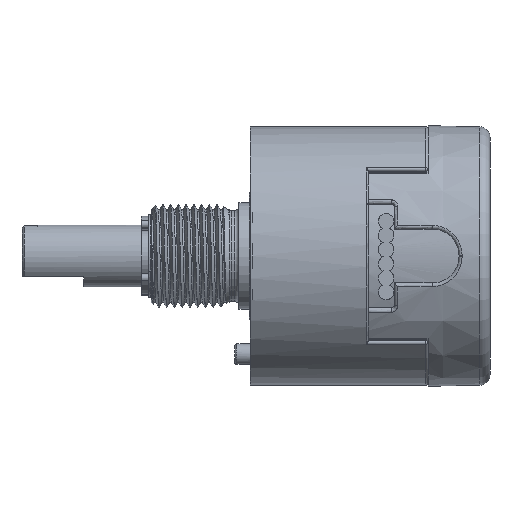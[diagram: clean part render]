
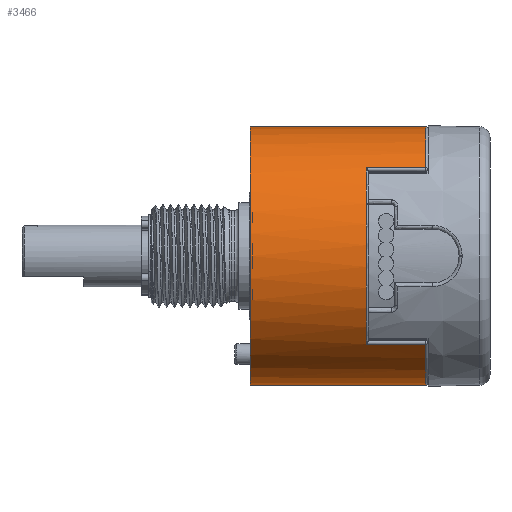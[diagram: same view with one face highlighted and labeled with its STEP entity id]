
A CAD part, front view. The second image highlights one B-rep face of the part: STEP entity #3466.
In plain terms, the highlighted cylindrical face has radius 12.5 mm (diameter 25 mm), a partial arc.
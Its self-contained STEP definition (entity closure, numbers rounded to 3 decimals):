
#20 = CARTESIAN_POINT ( 'NONE',  ( 5.6, -8.937, 8.537 ) ) ;
#281 = DIRECTION ( 'NONE',  ( 0., 0., 1. ) ) ;
#649 = LINE ( 'NONE', #1534, #2486 ) ;
#812 = AXIS2_PLACEMENT_3D ( 'NONE', #1274, #1214, #1390 ) ;
#824 = EDGE_CURVE ( 'NONE', #1554, #11196, #649, .T. ) ;
#910 = DIRECTION ( 'NONE',  ( 0., 0., 1. ) ) ;
#1003 = AXIS2_PLACEMENT_3D ( 'NONE', #8909, #9959, #910 ) ;
#1214 = DIRECTION ( 'NONE',  ( 1., 0., 0. ) ) ;
#1274 = CARTESIAN_POINT ( 'NONE',  ( -11.4, 0.194, 0. ) ) ;
#1390 = DIRECTION ( 'NONE',  ( 0., 0., -1. ) ) ;
#1534 = CARTESIAN_POINT ( 'NONE',  ( -29.87, -8.937, -8.537 ) ) ;
#1554 = VERTEX_POINT ( 'NONE', #2614 ) ;
#1641 = CIRCLE ( 'NONE', #4651, 12.5 ) ;
#1699 = DIRECTION ( 'NONE',  ( -1., 0., 0. ) ) ;
#1798 = CARTESIAN_POINT ( 'NONE',  ( 5.6, 0.194, 12.5 ) ) ;
#1851 = DIRECTION ( 'NONE',  ( 0., 0., 1. ) ) ;
#1860 = AXIS2_PLACEMENT_3D ( 'NONE', #6944, #1699, #10523 ) ;
#2095 = VERTEX_POINT ( 'NONE', #5039 ) ;
#2259 = VERTEX_POINT ( 'NONE', #20 ) ;
#2270 = VERTEX_POINT ( 'NONE', #3621 ) ;
#2467 = CARTESIAN_POINT ( 'NONE',  ( -29.87, 0.194, -12.5 ) ) ;
#2486 = VECTOR ( 'NONE', #8880, 1000. ) ;
#2577 = DIRECTION ( 'NONE',  ( -1., 0., 0. ) ) ;
#2614 = CARTESIAN_POINT ( 'NONE',  ( 5.6, -8.937, -8.537 ) ) ;
#2837 = VERTEX_POINT ( 'NONE', #7781 ) ;
#2858 = CARTESIAN_POINT ( 'NONE',  ( 5.6, 0.194, 0. ) ) ;
#2996 = CIRCLE ( 'NONE', #1860, 12.5 ) ;
#3003 = CARTESIAN_POINT ( 'NONE',  ( -29.87, 0.194, 0. ) ) ;
#3286 = DIRECTION ( 'NONE',  ( 1., 0., 0. ) ) ;
#3466 = ADVANCED_FACE ( 'NONE', ( #9228 ), #4061, .T. ) ;
#3621 = CARTESIAN_POINT ( 'NONE',  ( -11.4, 0.194, 12.5 ) ) ;
#3657 = EDGE_CURVE ( 'NONE', #8879, #2095, #6934, .T. ) ;
#4061 = CYLINDRICAL_SURFACE ( 'NONE', #7650, 12.5 ) ;
#4458 = ORIENTED_EDGE ( 'NONE', *, *, #8692, .T. ) ;
#4651 = AXIS2_PLACEMENT_3D ( 'NONE', #2858, #5333, #1851 ) ;
#4664 = ORIENTED_EDGE ( 'NONE', *, *, #824, .T. ) ;
#5039 = CARTESIAN_POINT ( 'NONE',  ( -11.4, 0.194, -12.5 ) ) ;
#5055 = LINE ( 'NONE', #10512, #8999 ) ;
#5127 = EDGE_CURVE ( 'NONE', #11608, #2270, #10784, .T. ) ;
#5222 = EDGE_CURVE ( 'NONE', #8879, #1554, #1641, .T. ) ;
#5333 = DIRECTION ( 'NONE',  ( -1., 0., 0. ) ) ;
#5339 = ORIENTED_EDGE ( 'NONE', *, *, #5127, .T. ) ;
#6073 = CIRCLE ( 'NONE', #1003, 12.5 ) ;
#6196 = EDGE_LOOP ( 'NONE', ( #7908, #6833, #4664, #4458, #6627, #6626, #5339, #6252 ) ) ;
#6252 = ORIENTED_EDGE ( 'NONE', *, *, #8451, .T. ) ;
#6384 = DIRECTION ( 'NONE',  ( -1., 0., 0. ) ) ;
#6497 = CARTESIAN_POINT ( 'NONE',  ( 5.6, 0.194, -12.5 ) ) ;
#6626 = ORIENTED_EDGE ( 'NONE', *, *, #6789, .T. ) ;
#6627 = ORIENTED_EDGE ( 'NONE', *, *, #7133, .T. ) ;
#6789 = EDGE_CURVE ( 'NONE', #2259, #11608, #2996, .T. ) ;
#6833 = ORIENTED_EDGE ( 'NONE', *, *, #5222, .T. ) ;
#6934 = LINE ( 'NONE', #2467, #7075 ) ;
#6944 = CARTESIAN_POINT ( 'NONE',  ( 5.6, 0.194, 0. ) ) ;
#7075 = VECTOR ( 'NONE', #2577, 1000. ) ;
#7133 = EDGE_CURVE ( 'NONE', #2837, #2259, #5055, .T. ) ;
#7269 = CARTESIAN_POINT ( 'NONE',  ( -29.87, 0.194, 12.5 ) ) ;
#7650 = AXIS2_PLACEMENT_3D ( 'NONE', #3003, #8525, #281 ) ;
#7781 = CARTESIAN_POINT ( 'NONE',  ( -0.2, -8.937, 8.537 ) ) ;
#7908 = ORIENTED_EDGE ( 'NONE', *, *, #3657, .F. ) ;
#8451 = EDGE_CURVE ( 'NONE', #2270, #2095, #11513, .T. ) ;
#8525 = DIRECTION ( 'NONE',  ( -1., 0., 0. ) ) ;
#8692 = EDGE_CURVE ( 'NONE', #11196, #2837, #6073, .T. ) ;
#8879 = VERTEX_POINT ( 'NONE', #6497 ) ;
#8880 = DIRECTION ( 'NONE',  ( -1., 0., 0. ) ) ;
#8909 = CARTESIAN_POINT ( 'NONE',  ( -0.2, 0.194, 0. ) ) ;
#8929 = CARTESIAN_POINT ( 'NONE',  ( -0.2, -8.937, -8.537 ) ) ;
#8999 = VECTOR ( 'NONE', #3286, 1000. ) ;
#9228 = FACE_OUTER_BOUND ( 'NONE', #6196, .T. ) ;
#9959 = DIRECTION ( 'NONE',  ( -1., 0., 0. ) ) ;
#10512 = CARTESIAN_POINT ( 'NONE',  ( -29.87, -8.937, 8.537 ) ) ;
#10523 = DIRECTION ( 'NONE',  ( 0., 0., 1. ) ) ;
#10784 = LINE ( 'NONE', #7269, #10836 ) ;
#10836 = VECTOR ( 'NONE', #6384, 1000. ) ;
#11196 = VERTEX_POINT ( 'NONE', #8929 ) ;
#11513 = CIRCLE ( 'NONE', #812, 12.5 ) ;
#11608 = VERTEX_POINT ( 'NONE', #1798 ) ;
